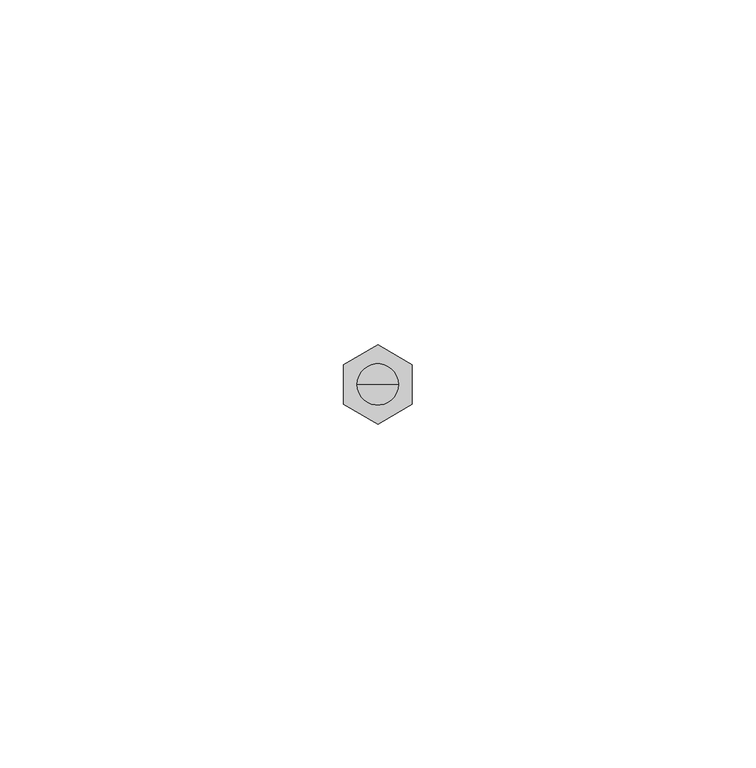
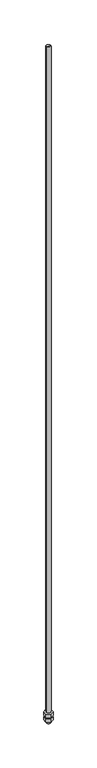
"""IFC4 building model written with IfcOpenShell, lengths in millimetres: proxy geometry, durlum_threaded_rod_M6 : durlum_threaded_rod_M6."""

from ifc_helpers import new_model, si_unit, frame, origin, origin_with_axes, place, context, project, spatial, polyline, circle_curve, outline, extrude, source, transform, mapped, element, save
from ifc_brep_helpers import plane_surface, cylinder_surface, advanced_brep


def generic_models_9f9b644e(model_context):
    return source(origin(), model_context, "Body", "SolidModel", [
        extrude(outline(polyline([(5.0, 3.0421914), (5.0, -2.7313113), (0.0, -5.6180626), (-5.0, -2.7313113), (-5.0, 3.0421914), (0.0, 5.9289428), (5.0, 3.0421914)])), frame((0.0, 0.0, -7.0), z_axis=(0.0, 0.0, 1.0), x_axis=(1.0, 0.0, 0.0)), (0.0, 0.0, 1.0), 5.0),
        extrude(outline(polyline([(5.0, 3.0421914), (5.0, -2.7313113), (0.0, -5.6180626), (-5.0, -2.7313113), (-5.0, 3.0421914), (0.0, 5.9289428), (5.0, 3.0421914)])), origin_with_axes(), (0.0, 0.0, 1.0), 5.0),
        advanced_brep(
        [(-3.0, 0.0, 965.679835), (3.0, 0.0, 965.679835), (3.0, 0.0, -10.0), (-3.0, 0.0, -10.0), (0.0, 0.0, 965.679835), (0.0, 0.0, -10.0)],
        [
            (0, 1, circle_curve(frame((0.0, 0.0, 965.679835), z_axis=(0.0, 0.0, -1.0), x_axis=(1.0, 0.0, 0.0)), 3.0)),
            (1, 2),
            (2, 3, circle_curve(frame((0.0, 0.0, -10.0), z_axis=(0.0, 0.0, 1.0), x_axis=(1.0, 0.0, 0.0)), 3.0)),
            (3, 0),
            (1, 0, circle_curve(frame((0.0, 0.0, 965.679835), z_axis=(0.0, 0.0, -1.0), x_axis=(1.0, 0.0, 0.0)), 3.0)),
            (3, 2, circle_curve(frame((0.0, 0.0, -10.0), z_axis=(0.0, 0.0, 1.0), x_axis=(1.0, 0.0, 0.0)), 3.0)),
            (4, 1),
            (0, 4),
            (2, 5),
            (5, 3),
        ],
        [
            cylinder_surface(frame((0.0, 0.0, -675.0), z_axis=(0.0, 0.0, 1.0), x_axis=(1.0, 0.0, 0.0)), 3.0),
            plane_surface(frame((0.0, 0.0, 965.679835), z_axis=(0.0, 0.0, 1.0), x_axis=(1.0, 0.0, 0.0))),
            plane_surface(frame((0.0, 0.0, -10.0), z_axis=(0.0, 0.0, -1.0), x_axis=(1.0, 0.0, 0.0))),
        ],
        [
            (0, [[1, 2, 3, 4]]),
            (0, [[5, -4, 6, -2]]),
            (1, [[7, -1, 8]]),
            (1, [[-8, -5, -7]]),
            (2, [[-3, 9, 10]]),
            (2, [[-6, -10, -9]]),
        ],
    ),
    ])


if __name__ == "__main__":
    model = new_model("IFC4")
    model_context = context("Model", 3, world=origin())
    ifc_project = project(units=[si_unit("LENGTHUNIT", "METRE", prefix="MILLI")], contexts=[model_context])
    site = spatial("IfcSite", under=ifc_project)
    building = spatial("IfcBuilding", under=site)
    placement = place(None, origin())
    generic_models_shape = generic_models_9f9b644e(model_context)
    element("IfcBuildingElementProxy", 1, Name="durlum_threaded_rod_M6 : durlum_threaded_rod_M6", ObjectType="durlum_threaded_rod_M6 : durlum_threaded_rod_M6", at=placement, inside=building, context=model_context, shape_type="MappedRepresentation", body=[
        mapped(generic_models_shape, transform((0.0, 0.0, 0.0), x_axis=(1.0, 0.0, 0.0), y_axis=(0.0, 1.0, 0.0), z_axis=(0.0, 0.0, 1.0))),
    ])
    save(model, "model.ifc")
